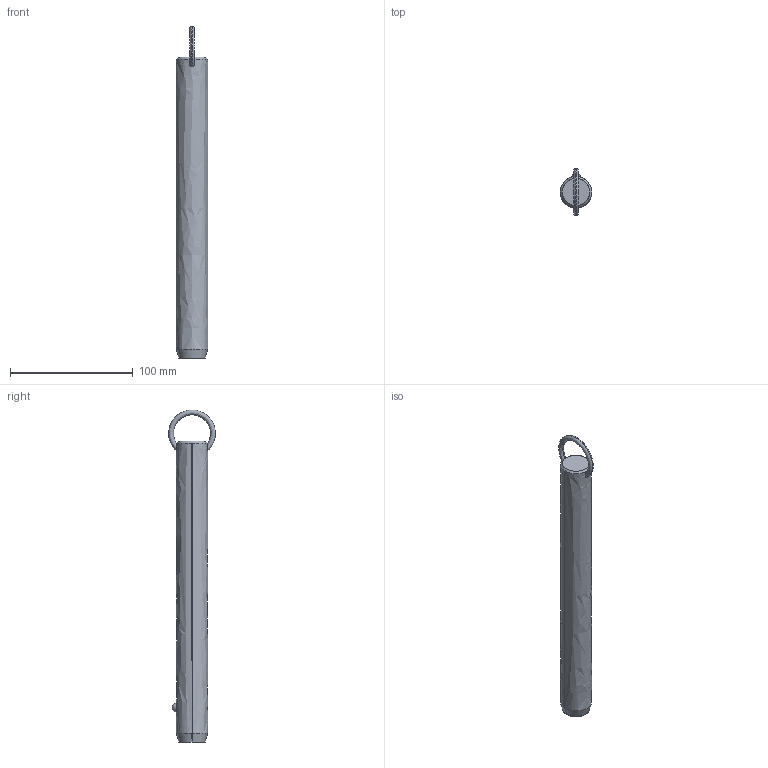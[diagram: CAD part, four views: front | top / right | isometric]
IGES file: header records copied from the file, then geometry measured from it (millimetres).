
Start section: SolidWorks IGES file using analytic representation for surfaces
Global section: file name: C:\Users\liam_\OneDrive\Documents\WORK\Work for WixRoyd\Job Files\J-00019 - Matt Davis CAD Checking\04. CAD Drawings\automotion20190605\P1250.2_v2\P1250.2_v2_20190729_IGES\P1250.100-790.igs; native system: SolidWorks 2017; preprocessor: SolidWorks 2017; author: liam_; date: 190730.175114; units: millimetre
Bounding box: 25.4 x 38.09 x 270.39 mm (x, y, z)
Surface area: 21323.5 mm2 (no closed solid volume)
Topology: 0 solids, 0 shells, 12 faces, 298 edges, 296 vertices
Faces by surface type: revolution 8, bspline 4
